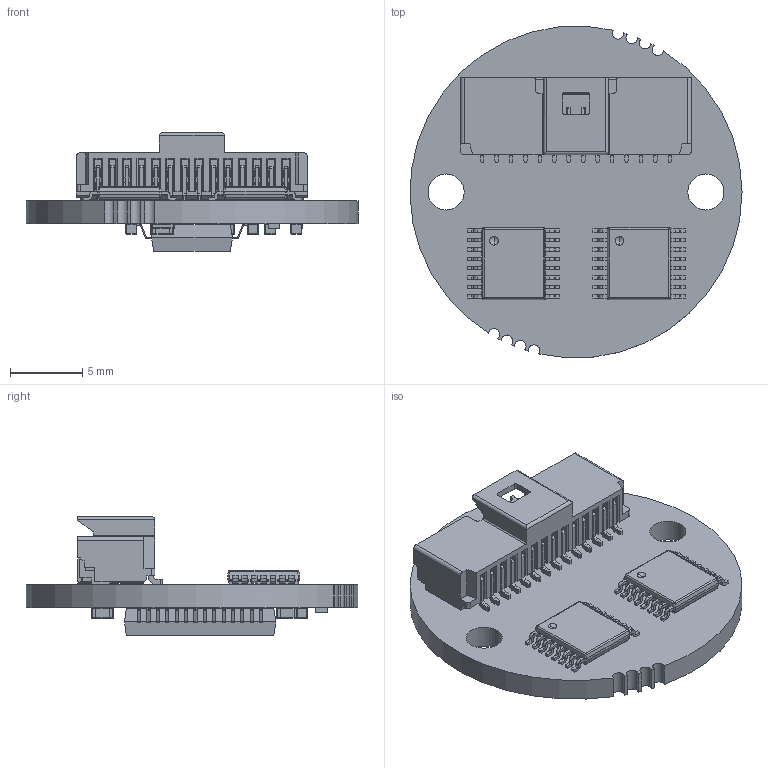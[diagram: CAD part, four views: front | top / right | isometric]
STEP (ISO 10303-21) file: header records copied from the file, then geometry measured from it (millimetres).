
FILE_DESCRIPTION(('Open CASCADE Model'),'2;1');
FILE_NAME('Open CASCADE Shape Model','2016-10-07T15:38:44',('Author'),( 'Open CASCADE'),'Open CASCADE STEP processor 6.8','Open CASCADE 6.8' ,'Unknown');
FILE_SCHEMA(('AUTOMOTIVE_DESIGN { 1 0 10303 214 1 1 1 1 }'));
Length unit declared in the file: millimetre
Products named in the file (25): PCB; Board; K1; 5015681407; Open CASCADE STEP translator 6.8 1.2.1.1; Open CASCADE STEP translator 6.8 1.2.1.2; R1; SW3dPS-R0603; C3; C0603; C6; C7; C8; C9; R2; R3; C4; C5; C10; IC1; SW3dPS-TSSOP-16; IC5; IC3; SW3dPS-SSOP-28; C1
Assembly tree (35 placements, depth 4):
  PCB
    Board
    K1
      5015681407
        Open CASCADE STEP translator 6.8 1.2.1.1
        Open CASCADE STEP translator 6.8 1.2.1.2
    R1
      SW3dPS-R0603
    C3
      C0603
    C6
      C0603
    C7
      C0603
    C8
      C0603
    C9
      C0603
    R2
      SW3dPS-R0603
    R3
      SW3dPS-R0603
    C4
      C0603
    C5
      C0603
    C10
      C0603
    IC1
      SW3dPS-TSSOP-16
    IC5
      SW3dPS-TSSOP-16
    IC3
      SW3dPS-SSOP-28
    C1
      C0603
Bounding box: 23 x 22.96 x 8.22 mm (x, y, z)
Volume: 933.1 mm3; surface area: 2163.9 mm2
Topology: 64 solids, 64 shells, 3367 faces, 8807 edges, 5650 vertices
Faces by surface type: plane 2053, cylinder 637, bspline 541, cone 116, sphere 20
Full cylindrical faces by diameter (mm): 2.5 x2
Entity records: 193765 total; most frequent: CARTESIAN_POINT 80809, DIRECTION 19017, LINE 12818, VECTOR 12818, ORIENTED_EDGE 11134, PCURVE 11134, DEFINITIONAL_REPRESENTATION 11134, EDGE_CURVE 5567
